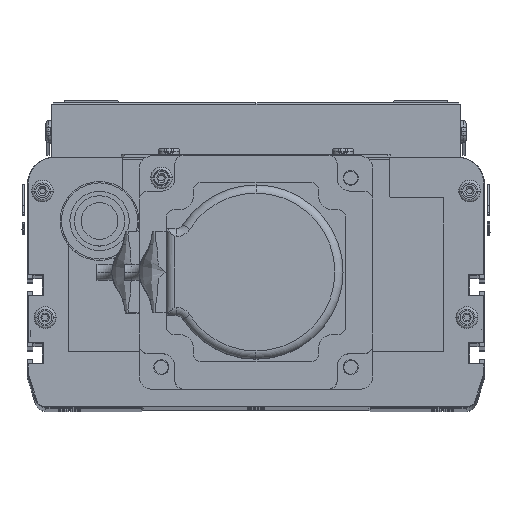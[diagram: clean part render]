
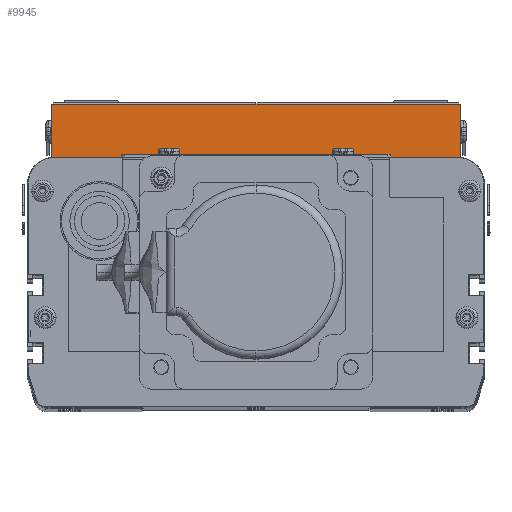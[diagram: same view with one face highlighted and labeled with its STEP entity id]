
A CAD part, top view. The second image highlights one B-rep face of the part: STEP entity #9945.
In plain terms, the highlighted planar face has unit normal (0, 0, 1) as drawn and (1, 0, 0) by its records, which use the part's own axes.
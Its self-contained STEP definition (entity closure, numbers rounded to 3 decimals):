
#9665 = VERTEX_POINT ( 'NONE', #76063 ) ;
#9715 = VERTEX_POINT ( 'NONE', #75861 ) ;
#9719 = EDGE_CURVE ( 'NONE', #9715, #9665, #74643, .T. ) ;
#9726 = VERTEX_POINT ( 'NONE', #76204 ) ;
#9945 = ADVANCED_FACE ( 'NONE', ( #76681 ), #76536, .F. ) ;
#9948 = ORIENTED_EDGE ( 'NONE', *, *, #10122, .T. ) ;
#9978 = EDGE_CURVE ( 'NONE', #10003, #9987, #76549, .T. ) ;
#9979 = ORIENTED_EDGE ( 'NONE', *, *, #9978, .T. ) ;
#9987 = VERTEX_POINT ( 'NONE', #76622 ) ;
#9995 = EDGE_CURVE ( 'NONE', #9726, #9665, #76617, .T. ) ;
#9996 = EDGE_CURVE ( 'NONE', #9987, #9715, #76629, .T. ) ;
#10002 = ORIENTED_EDGE ( 'NONE', *, *, #9996, .T. ) ;
#10003 = VERTEX_POINT ( 'NONE', #76632 ) ;
#10004 = ORIENTED_EDGE ( 'NONE', *, *, #9995, .F. ) ;
#10023 = ORIENTED_EDGE ( 'NONE', *, *, #9719, .T. ) ;
#10122 = EDGE_CURVE ( 'NONE', #9726, #10003, #76773, .T. ) ;
#10123 = EDGE_LOOP ( 'NONE', ( #10004, #9948, #9979, #10002, #10023 ) ) ;
#74643 = LINE ( 'NONE', #74934, #75549 ) ;
#74934 = CARTESIAN_POINT ( 'NONE',  ( 220., 0., 0. ) ) ;
#75549 = VECTOR ( 'NONE', #75686, 1000. ) ;
#75686 = DIRECTION ( 'NONE',  ( 0., 0., -1. ) ) ;
#75861 = CARTESIAN_POINT ( 'NONE',  ( 220., 0., 0. ) ) ;
#76063 = CARTESIAN_POINT ( 'NONE',  ( 220., 0., -150. ) ) ;
#76204 = CARTESIAN_POINT ( 'NONE',  ( 220., 19.5, -150. ) ) ;
#76505 = CARTESIAN_POINT ( 'NONE',  ( 220., 20., 0. ) ) ;
#76536 = PLANE ( 'NONE',  #76680 ) ;
#76548 = CARTESIAN_POINT ( 'NONE',  ( 220., 19.5, 0. ) ) ;
#76549 = LINE ( 'NONE', #76548, #76626 ) ;
#76579 = DIRECTION ( 'NONE',  ( 0., 0., 1. ) ) ;
#76580 = DIRECTION ( 'NONE',  ( -1., 0., 0. ) ) ;
#76617 = LINE ( 'NONE', #76662, #76661 ) ;
#76622 = CARTESIAN_POINT ( 'NONE',  ( 220., 19.5, 0. ) ) ;
#76625 = DIRECTION ( 'NONE',  ( 0., 0., 1. ) ) ;
#76626 = VECTOR ( 'NONE', #76625, 1000. ) ;
#76629 = LINE ( 'NONE', #76659, #76639 ) ;
#76632 = CARTESIAN_POINT ( 'NONE',  ( 220., 19.5, -75. ) ) ;
#76638 = DIRECTION ( 'NONE',  ( 0., -1., 0. ) ) ;
#76639 = VECTOR ( 'NONE', #76638, 1000. ) ;
#76659 = CARTESIAN_POINT ( 'NONE',  ( 220., 20., 0. ) ) ;
#76660 = DIRECTION ( 'NONE',  ( 0., -1., 0. ) ) ;
#76661 = VECTOR ( 'NONE', #76660, 1000. ) ;
#76662 = CARTESIAN_POINT ( 'NONE',  ( 220., 20., -150. ) ) ;
#76680 = AXIS2_PLACEMENT_3D ( 'NONE', #76505, #76580, #76579 ) ;
#76681 = FACE_OUTER_BOUND ( 'NONE', #10123, .T. ) ;
#76770 = DIRECTION ( 'NONE',  ( 0., 0., 1. ) ) ;
#76771 = VECTOR ( 'NONE', #76770, 1000. ) ;
#76772 = CARTESIAN_POINT ( 'NONE',  ( 220., 19.5, 0. ) ) ;
#76773 = LINE ( 'NONE', #76772, #76771 ) ;
